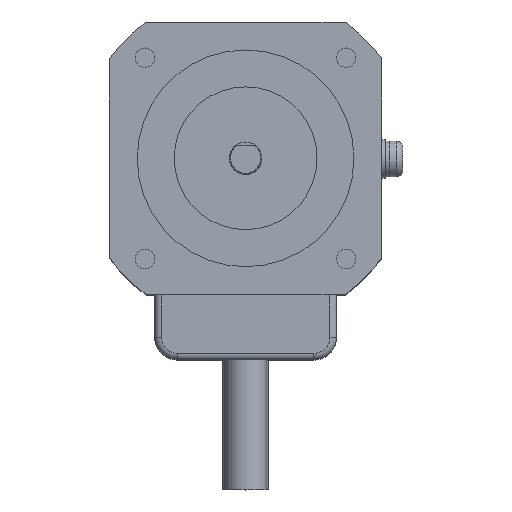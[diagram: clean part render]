
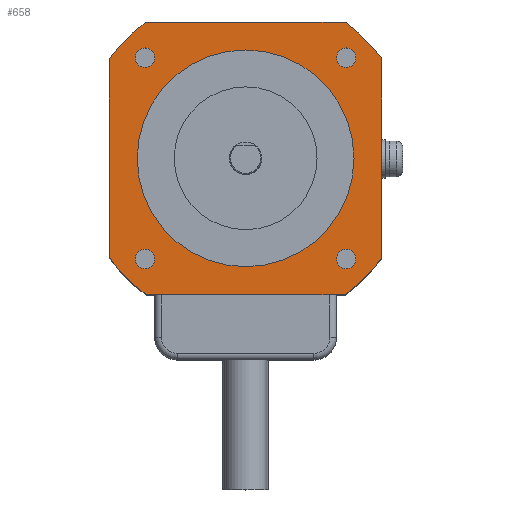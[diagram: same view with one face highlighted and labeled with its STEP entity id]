
A CAD part, top view. The second image highlights one B-rep face of the part: STEP entity #658.
In plain terms, the highlighted planar face has unit normal (0, 0, 1).
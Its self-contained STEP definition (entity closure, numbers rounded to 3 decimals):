
#92 = CARTESIAN_POINT ( 'NONE',  ( -14., -15.5, 0. ) ) ;
#175 = CARTESIAN_POINT ( 'NONE',  ( 0., 0., 0. ) ) ;
#259 = EDGE_CURVE ( 'NONE', #2327, #2327, #1221, .T. ) ;
#263 = ORIENTED_EDGE ( 'NONE', *, *, #816, .T. ) ;
#295 = CARTESIAN_POINT ( 'NONE',  ( 0., 0., 0. ) ) ;
#313 = VECTOR ( 'NONE', #2595, 1000. ) ;
#321 = CARTESIAN_POINT ( 'NONE',  ( -14., 15.5, 0. ) ) ;
#447 = ORIENTED_EDGE ( 'NONE', *, *, #259, .F. ) ;
#462 = EDGE_CURVE ( 'NONE', #2680, #2957, #567, .T. ) ;
#471 = DIRECTION ( 'NONE',  ( 1., 0., 0. ) ) ;
#477 = VECTOR ( 'NONE', #2080, 1000. ) ;
#480 = ORIENTED_EDGE ( 'NONE', *, *, #462, .F. ) ;
#494 = CIRCLE ( 'NONE', #2835, 1.5 ) ;
#541 = CIRCLE ( 'NONE', #2733, 1.5 ) ;
#546 = CARTESIAN_POINT ( 'NONE',  ( 16.7, 0., 0. ) ) ;
#567 = LINE ( 'NONE', #1267, #1364 ) ;
#599 = CARTESIAN_POINT ( 'NONE',  ( 0., 0., 0. ) ) ;
#606 = VERTEX_POINT ( 'NONE', #92 ) ;
#642 = DIRECTION ( 'NONE',  ( 0., 0., 1. ) ) ;
#658 = ADVANCED_FACE ( 'NONE', ( #1790, #2900, #2609, #1977, #1146, #2354 ), #2049, .T. ) ;
#659 = EDGE_LOOP ( 'NONE', ( #1468, #3014, #2223, #1703, #480, #2880, #2102, #263 ) ) ;
#667 = AXIS2_PLACEMENT_3D ( 'NONE', #1635, #691, #2377 ) ;
#681 = DIRECTION ( 'NONE',  ( 1., 0., 0. ) ) ;
#688 = DIRECTION ( 'NONE',  ( 0., 0., 1. ) ) ;
#691 = DIRECTION ( 'NONE',  ( 0., 0., 1. ) ) ;
#781 = CIRCLE ( 'NONE', #3061, 26. ) ;
#800 = CARTESIAN_POINT ( 'NONE',  ( 17., 15.5, 0. ) ) ;
#816 = EDGE_CURVE ( 'NONE', #1815, #2038, #993, .T. ) ;
#851 = DIRECTION ( 'NONE',  ( 0., 0., 1. ) ) ;
#861 = DIRECTION ( 'NONE',  ( 0., 0., 1. ) ) ;
#875 = EDGE_LOOP ( 'NONE', ( #2569 ) ) ;
#892 = VERTEX_POINT ( 'NONE', #546 ) ;
#960 = CARTESIAN_POINT ( 'NONE',  ( 21., 15.33, 0. ) ) ;
#975 = AXIS2_PLACEMENT_3D ( 'NONE', #2615, #1418, #1903 ) ;
#990 = DIRECTION ( 'NONE',  ( 0., 0., 1. ) ) ;
#993 = CIRCLE ( 'NONE', #667, 26. ) ;
#1026 = ORIENTED_EDGE ( 'NONE', *, *, #1884, .F. ) ;
#1032 = CARTESIAN_POINT ( 'NONE',  ( 15.33, 21., 0. ) ) ;
#1068 = EDGE_CURVE ( 'NONE', #1520, #1520, #494, .T. ) ;
#1132 = VERTEX_POINT ( 'NONE', #1733 ) ;
#1146 = FACE_BOUND ( 'NONE', #2422, .T. ) ;
#1165 = DIRECTION ( 'NONE',  ( 0., 0., 1. ) ) ;
#1192 = AXIS2_PLACEMENT_3D ( 'NONE', #2296, #851, #2534 ) ;
#1205 = DIRECTION ( 'NONE',  ( 1., 0., 0. ) ) ;
#1221 = CIRCLE ( 'NONE', #975, 1.5 ) ;
#1267 = CARTESIAN_POINT ( 'NONE',  ( -21., -57.341, 0. ) ) ;
#1314 = CARTESIAN_POINT ( 'NONE',  ( 21., -57.341, 0. ) ) ;
#1345 = AXIS2_PLACEMENT_3D ( 'NONE', #599, #2596, #1751 ) ;
#1354 = DIRECTION ( 'NONE',  ( 1., 0., 0. ) ) ;
#1364 = VECTOR ( 'NONE', #3034, 1000. ) ;
#1368 = EDGE_CURVE ( 'NONE', #2680, #2884, #781, .T. ) ;
#1418 = DIRECTION ( 'NONE',  ( 0., 0., 1. ) ) ;
#1440 = DIRECTION ( 'NONE',  ( 1., 0., 0. ) ) ;
#1452 = CARTESIAN_POINT ( 'NONE',  ( 15.33, -21., 0. ) ) ;
#1468 = ORIENTED_EDGE ( 'NONE', *, *, #1878, .T. ) ;
#1496 = VECTOR ( 'NONE', #681, 1000. ) ;
#1520 = VERTEX_POINT ( 'NONE', #1990 ) ;
#1542 = EDGE_CURVE ( 'NONE', #2884, #1815, #2725, .T. ) ;
#1579 = DIRECTION ( 'NONE',  ( 1., 0., 0. ) ) ;
#1598 = DIRECTION ( 'NONE',  ( 1., 0., 0. ) ) ;
#1613 = CARTESIAN_POINT ( 'NONE',  ( -15.33, -21., 0. ) ) ;
#1635 = CARTESIAN_POINT ( 'NONE',  ( 0., 0., 0. ) ) ;
#1671 = ORIENTED_EDGE ( 'NONE', *, *, #1068, .F. ) ;
#1698 = EDGE_CURVE ( 'NONE', #1132, #2957, #2762, .T. ) ;
#1700 = AXIS2_PLACEMENT_3D ( 'NONE', #295, #990, #1205 ) ;
#1703 = ORIENTED_EDGE ( 'NONE', *, *, #1698, .T. ) ;
#1733 = CARTESIAN_POINT ( 'NONE',  ( -15.33, 21., 0. ) ) ;
#1744 = VERTEX_POINT ( 'NONE', #960 ) ;
#1751 = DIRECTION ( 'NONE',  ( 1., 0., 0. ) ) ;
#1790 = FACE_BOUND ( 'NONE', #2652, .T. ) ;
#1815 = VERTEX_POINT ( 'NONE', #1452 ) ;
#1829 = DIRECTION ( 'NONE',  ( 0., 0., 1. ) ) ;
#1878 = EDGE_CURVE ( 'NONE', #2038, #1744, #2104, .T. ) ;
#1884 = EDGE_CURVE ( 'NONE', #892, #892, #2809, .T. ) ;
#1898 = EDGE_LOOP ( 'NONE', ( #1671 ) ) ;
#1903 = DIRECTION ( 'NONE',  ( 1., 0., 0. ) ) ;
#1977 = FACE_BOUND ( 'NONE', #1898, .T. ) ;
#1990 = CARTESIAN_POINT ( 'NONE',  ( 17., -15.5, 0. ) ) ;
#2007 = EDGE_CURVE ( 'NONE', #1132, #3079, #2635, .T. ) ;
#2038 = VERTEX_POINT ( 'NONE', #2374 ) ;
#2046 = CARTESIAN_POINT ( 'NONE',  ( 0., 0., 0. ) ) ;
#2049 = PLANE ( 'NONE',  #1192 ) ;
#2059 = CIRCLE ( 'NONE', #2159, 1.5 ) ;
#2073 = CARTESIAN_POINT ( 'NONE',  ( -21., -15.33, 0. ) ) ;
#2080 = DIRECTION ( 'NONE',  ( 0., 1., 0. ) ) ;
#2101 = CARTESIAN_POINT ( 'NONE',  ( 0., 21., 0. ) ) ;
#2102 = ORIENTED_EDGE ( 'NONE', *, *, #1542, .T. ) ;
#2104 = LINE ( 'NONE', #1314, #477 ) ;
#2118 = CARTESIAN_POINT ( 'NONE',  ( 15.5, -15.5, 0. ) ) ;
#2140 = EDGE_LOOP ( 'NONE', ( #2383 ) ) ;
#2159 = AXIS2_PLACEMENT_3D ( 'NONE', #2542, #642, #1579 ) ;
#2223 = ORIENTED_EDGE ( 'NONE', *, *, #2007, .F. ) ;
#2296 = CARTESIAN_POINT ( 'NONE',  ( 0., -57.341, 0. ) ) ;
#2327 = VERTEX_POINT ( 'NONE', #800 ) ;
#2352 = AXIS2_PLACEMENT_3D ( 'NONE', #2046, #861, #1598 ) ;
#2354 = FACE_OUTER_BOUND ( 'NONE', #659, .T. ) ;
#2374 = CARTESIAN_POINT ( 'NONE',  ( 21., -15.33, 0. ) ) ;
#2377 = DIRECTION ( 'NONE',  ( 1., 0., 0. ) ) ;
#2383 = ORIENTED_EDGE ( 'NONE', *, *, #2899, .F. ) ;
#2408 = CARTESIAN_POINT ( 'NONE',  ( -21., 15.33, 0. ) ) ;
#2422 = EDGE_LOOP ( 'NONE', ( #447 ) ) ;
#2520 = EDGE_CURVE ( 'NONE', #1744, #3079, #2628, .T. ) ;
#2534 = DIRECTION ( 'NONE',  ( 1., 0., 0. ) ) ;
#2542 = CARTESIAN_POINT ( 'NONE',  ( -15.5, 15.5, 0. ) ) ;
#2569 = ORIENTED_EDGE ( 'NONE', *, *, #2686, .F. ) ;
#2595 = DIRECTION ( 'NONE',  ( 1., 0., 0. ) ) ;
#2596 = DIRECTION ( 'NONE',  ( 0., 0., 1. ) ) ;
#2603 = CARTESIAN_POINT ( 'NONE',  ( -15.5, -15.5, 0. ) ) ;
#2609 = FACE_BOUND ( 'NONE', #2140, .T. ) ;
#2615 = CARTESIAN_POINT ( 'NONE',  ( 15.5, 15.5, 0. ) ) ;
#2628 = CIRCLE ( 'NONE', #1345, 26. ) ;
#2635 = LINE ( 'NONE', #2101, #1496 ) ;
#2652 = EDGE_LOOP ( 'NONE', ( #1026 ) ) ;
#2680 = VERTEX_POINT ( 'NONE', #2073 ) ;
#2686 = EDGE_CURVE ( 'NONE', #2730, #2730, #2059, .T. ) ;
#2725 = LINE ( 'NONE', #2829, #313 ) ;
#2730 = VERTEX_POINT ( 'NONE', #321 ) ;
#2733 = AXIS2_PLACEMENT_3D ( 'NONE', #2603, #1165, #1440 ) ;
#2762 = CIRCLE ( 'NONE', #1700, 26. ) ;
#2809 = CIRCLE ( 'NONE', #2352, 16.7 ) ;
#2829 = CARTESIAN_POINT ( 'NONE',  ( 0., -21., 0. ) ) ;
#2835 = AXIS2_PLACEMENT_3D ( 'NONE', #2118, #688, #471 ) ;
#2880 = ORIENTED_EDGE ( 'NONE', *, *, #1368, .T. ) ;
#2884 = VERTEX_POINT ( 'NONE', #1613 ) ;
#2899 = EDGE_CURVE ( 'NONE', #606, #606, #541, .T. ) ;
#2900 = FACE_BOUND ( 'NONE', #875, .T. ) ;
#2957 = VERTEX_POINT ( 'NONE', #2408 ) ;
#3014 = ORIENTED_EDGE ( 'NONE', *, *, #2520, .T. ) ;
#3034 = DIRECTION ( 'NONE',  ( 0., 1., 0. ) ) ;
#3061 = AXIS2_PLACEMENT_3D ( 'NONE', #175, #1829, #1354 ) ;
#3079 = VERTEX_POINT ( 'NONE', #1032 ) ;
